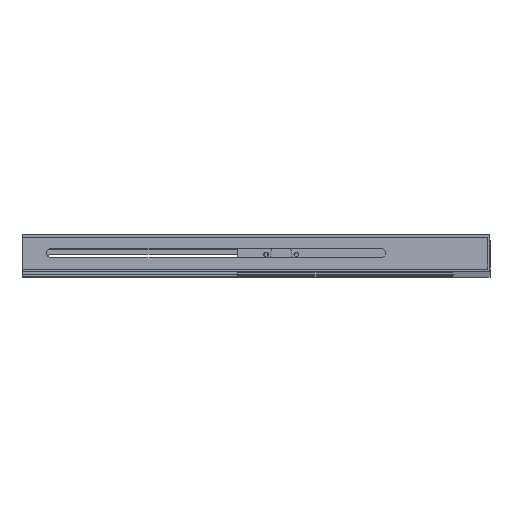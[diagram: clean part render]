
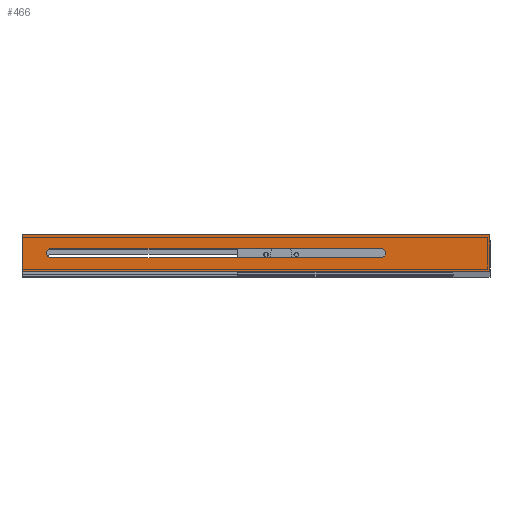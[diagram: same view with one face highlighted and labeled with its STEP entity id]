
A CAD part, top view. The second image highlights one B-rep face of the part: STEP entity #466.
In plain terms, the highlighted planar face has unit normal (0, 0, 1).
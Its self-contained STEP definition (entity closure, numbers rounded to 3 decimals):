
#177=FACE_BOUND('',#842,.F.);
#466=ADVANCED_FACE('',(#177,#635),#1792,.T.);
#635=FACE_OUTER_BOUND('',#843,.F.);
#842=EDGE_LOOP('',(#1477,#1478,#1479,#1480));
#843=EDGE_LOOP('',(#1481,#1482,#1483,#1484));
#1477=ORIENTED_EDGE('',*,*,#3286,.T.);
#1478=ORIENTED_EDGE('',*,*,#3285,.T.);
#1479=ORIENTED_EDGE('',*,*,#3284,.T.);
#1480=ORIENTED_EDGE('',*,*,#3283,.T.);
#1481=ORIENTED_EDGE('',*,*,#3010,.T.);
#1482=ORIENTED_EDGE('',*,*,#3297,.F.);
#1483=ORIENTED_EDGE('',*,*,#3293,.T.);
#1484=ORIENTED_EDGE('',*,*,#3296,.T.);
#1792=PLANE('',#4384);
#2943=CIRCLE('',#4271,3.1);
#2944=CIRCLE('',#4272,3.1);
#3010=EDGE_CURVE('',#4142,#4140,#3412,.T.);
#3283=EDGE_CURVE('',#3974,#3972,#2943,.T.);
#3284=EDGE_CURVE('',#3976,#3974,#3623,.T.);
#3285=EDGE_CURVE('',#3978,#3976,#2944,.T.);
#3286=EDGE_CURVE('',#3972,#3978,#3624,.T.);
#3293=EDGE_CURVE('',#3959,#3960,#3631,.T.);
#3296=EDGE_CURVE('',#3960,#4142,#3634,.T.);
#3297=EDGE_CURVE('',#3959,#4140,#3635,.T.);
#3412=LINE('',#5589,#3686);
#3623=LINE('',#5863,#3897);
#3624=LINE('',#5865,#3898);
#3631=LINE('',#5872,#3905);
#3634=LINE('',#5875,#3908);
#3635=LINE('',#5876,#3909);
#3686=VECTOR('',#4518,25.4);
#3897=VECTOR('',#4855,230.);
#3898=VECTOR('',#4858,230.);
#3905=VECTOR('',#4865,25.4);
#3908=VECTOR('',#4868,325.4);
#3909=VECTOR('',#4869,325.4);
#3959=VERTEX_POINT('',#5404);
#3960=VERTEX_POINT('',#5405);
#3972=VERTEX_POINT('',#5417);
#3974=VERTEX_POINT('',#5419);
#3976=VERTEX_POINT('',#5421);
#3978=VERTEX_POINT('',#5423);
#4140=VERTEX_POINT('',#5585);
#4142=VERTEX_POINT('',#5587);
#4271=AXIS2_PLACEMENT_3D('',#5862,#4853,#4854);
#4272=AXIS2_PLACEMENT_3D('',#5864,#4856,#4857);
#4384=AXIS2_PLACEMENT_3D('',#5989,#5093,#5094);
#4518=DIRECTION('',(0.,-1.,0.));
#4853=DIRECTION('',(0.,0.,1.));
#4854=DIRECTION('',(0.,-1.,0.));
#4855=DIRECTION('',(1.,0.,0.));
#4856=DIRECTION('',(0.,0.,1.));
#4857=DIRECTION('',(0.,1.,0.));
#4858=DIRECTION('',(-1.,0.,0.));
#4865=DIRECTION('',(0.,1.,0.));
#4868=DIRECTION('',(1.,0.,0.));
#4869=DIRECTION('',(1.,0.,0.));
#5093=DIRECTION('',(0.,0.,1.));
#5094=DIRECTION('',(0.,1.,0.));
#5404=CARTESIAN_POINT('',(1621.786,-2819.741,6774.345));
#5405=CARTESIAN_POINT('',(1621.786,-2794.341,6774.345));
#5417=CARTESIAN_POINT('',(1871.786,-2803.941,6774.345));
#5419=CARTESIAN_POINT('',(1871.786,-2810.141,6774.345));
#5421=CARTESIAN_POINT('',(1641.786,-2810.141,6774.345));
#5423=CARTESIAN_POINT('',(1641.786,-2803.941,6774.345));
#5585=CARTESIAN_POINT('',(1947.186,-2819.741,6774.345));
#5587=CARTESIAN_POINT('',(1947.186,-2794.341,6774.345));
#5589=CARTESIAN_POINT('',(1947.186,-2794.341,6774.345));
#5862=CARTESIAN_POINT('',(1871.786,-2807.041,6774.345));
#5863=CARTESIAN_POINT('',(1641.786,-2810.141,6774.345));
#5864=CARTESIAN_POINT('',(1641.786,-2807.041,6774.345));
#5865=CARTESIAN_POINT('',(1871.786,-2803.941,6774.345));
#5872=CARTESIAN_POINT('',(1621.786,-2819.741,6774.345));
#5875=CARTESIAN_POINT('',(1621.786,-2794.341,6774.345));
#5876=CARTESIAN_POINT('',(1621.786,-2819.741,6774.345));
#5989=CARTESIAN_POINT('',(1950.44,-2822.995,6774.345));
